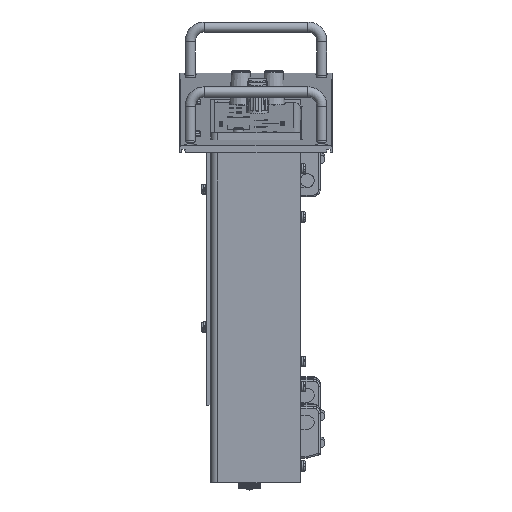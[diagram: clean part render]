
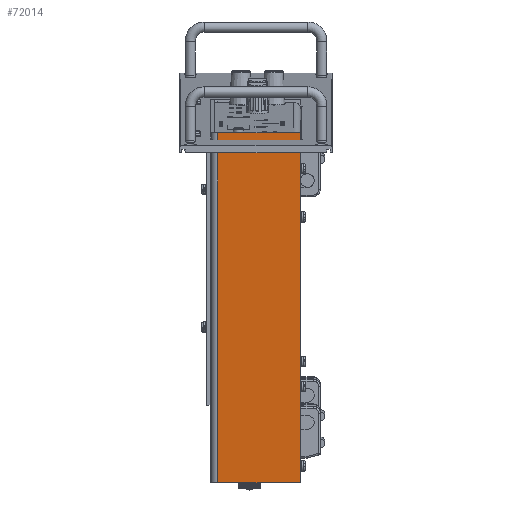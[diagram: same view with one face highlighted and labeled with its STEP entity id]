
A CAD part, left-side view. The second image highlights one B-rep face of the part: STEP entity #72014.
In plain terms, the highlighted planar face has unit normal (-0.996, 0, -0.087).
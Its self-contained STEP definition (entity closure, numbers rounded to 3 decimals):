
#6766=LINE($,#116716,#12162);
#6770=LINE($,#116731,#12166);
#6781=LINE($,#116757,#12177);
#6782=LINE($,#116758,#12178);
#12162=VECTOR($,#90097,48.);
#12166=VECTOR($,#90111,48.);
#12177=VECTOR($,#90136,203.);
#12178=VECTOR($,#90137,203.);
#16813=FACE_OUTER_BOUND($,#24037,.T.);
#24037=EDGE_LOOP($,(#56277,#56278,#56279,#56280));
#32210=VERTEX_POINT($,#116713);
#32211=VERTEX_POINT($,#116715);
#32216=VERTEX_POINT($,#116728);
#32217=VERTEX_POINT($,#116730);
#40833=EDGE_CURVE($,#32210,#32211,#6766,.T.);
#40841=EDGE_CURVE($,#32216,#32217,#6770,.T.);
#40855=EDGE_CURVE($,#32216,#32211,#6781,.T.);
#40856=EDGE_CURVE($,#32217,#32210,#6782,.T.);
#56277=ORIENTED_EDGE($,*,*,#40855,.T.);
#56278=ORIENTED_EDGE($,*,*,#40833,.F.);
#56279=ORIENTED_EDGE($,*,*,#40856,.F.);
#56280=ORIENTED_EDGE($,*,*,#40841,.F.);
#64880=PLANE($,#77032);
#72014=ADVANCED_FACE($,(#16813),#64880,.T.);
#77032=AXIS2_PLACEMENT_3D($,#116756,#90134,#90135);
#90097=DIRECTION($,(0.,1.,0.));
#90111=DIRECTION($,(0.,-1.,0.));
#90134=DIRECTION('center_axis',(-0.996,0.,
-0.087));
#90135=DIRECTION('ref_axis',(0.,1.,0.));
#90136=DIRECTION($,(0.087,0.,-0.996));
#90137=DIRECTION($,(0.087,0.,-0.996));
#116713=CARTESIAN_POINT('',(147.375,-379.228,77.81));
#116715=CARTESIAN_POINT('',(147.375,-331.228,77.81));
#116716=CARTESIAN_POINT($,(147.375,-322.181,77.81));
#116728=CARTESIAN_POINT('',(129.663,-331.228,280.035));
#116730=CARTESIAN_POINT('',(129.663,-379.228,280.035));
#116731=CARTESIAN_POINT($,(129.663,-331.228,280.035));
#116756=CARTESIAN_POINT('Origin',(138.519,-352.966,178.923));
#116757=CARTESIAN_POINT($,(138.519,-331.228,178.923));
#116758=CARTESIAN_POINT($,(129.663,-379.228,280.035));
